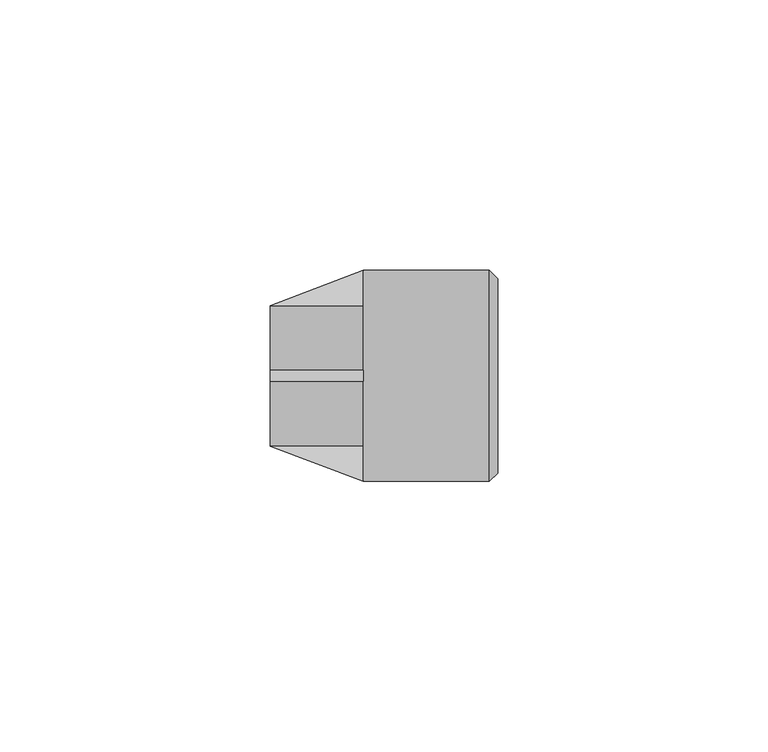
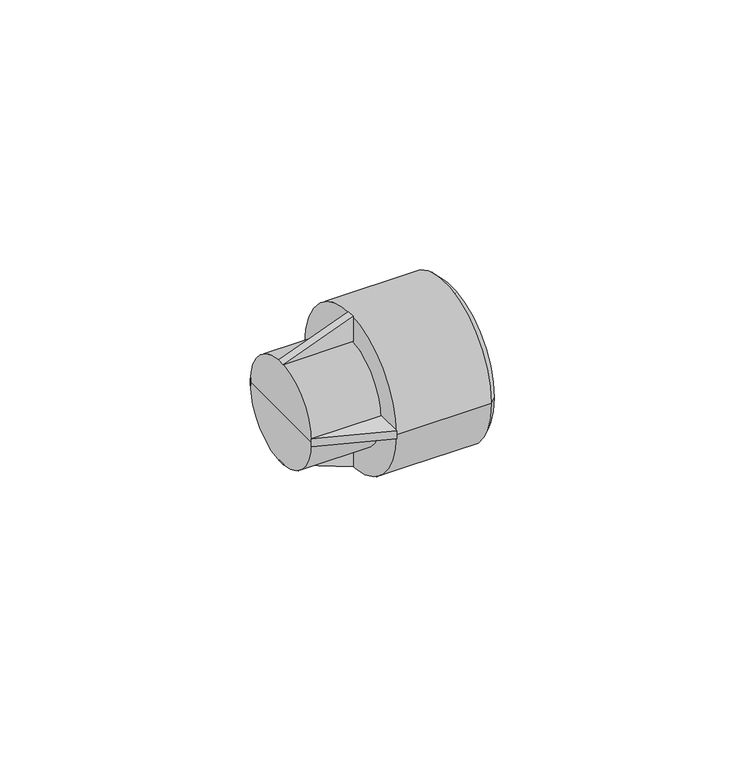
"""IFC4 building model written with IfcOpenShell, lengths in millimetres: pipe fitting geometry, KAN-therm PP mufa gw 1_2 : KAN-therm PP mufa gw 1_2."""

from ifc_helpers import new_model, si_unit, frame, origin, place, context, project, spatial, polyline, circle_curve, outline, extrude, source, transform, mapped, element, save
from ifc_brep_helpers import plane_surface, cylinder_surface, revolved_surface, advanced_brep


def pipe_fitting_1fe816a6(model_context):
    return source(origin(), model_context, "Body", "SolidModel", [
        extrude(outline(polyline([(13.0, -13.3), (13.0, 3.85), (19.5, 3.85), (13.0, -13.3)])), frame((0.0, -1.0, 0.0), z_axis=(0.0, 1.0, 0.0), x_axis=(0.0, 0.0, 1.0)), (0.0, 0.0, 1.0), 2.0),
        extrude(outline(polyline([(-13.0, -13.3), (-19.5, 3.85), (-13.0, 3.85), (-13.0, -13.3)])), frame((0.0, -1.0, 0.0), z_axis=(0.0, 1.0, 0.0), x_axis=(0.0, 0.0, 1.0)), (0.0, 0.0, 1.0), 2.0),
        extrude(outline(polyline([(3.85, 13.0), (-13.3, 13.0), (3.85, 19.5), (3.85, 13.0)])), frame((0.0, 0.0, -1.0), z_axis=(0.0, 0.0, 1.0), x_axis=(1.0, 0.0, 0.0)), (0.0, 0.0, 1.0), 2.0),
        extrude(outline(polyline([(-13.3, -13.0), (3.85, -13.0), (3.85, -19.5), (-13.3, -13.0)])), frame((0.0, 0.0, -1.0), z_axis=(0.0, 0.0, 1.0), x_axis=(1.0, 0.0, 0.0)), (0.0, 0.0, 1.0), 2.0),
        advanced_brep(
        [(28.7, -18.0, 0.0), (28.7, 18.0, 0.0), (28.7, 0.0, 0.0), (27.2, -19.5, 0.0), (27.2, 19.5, 0.0), (3.85, -19.5, 0.0), (3.85, 19.5, 0.0), (-13.3, 0.0, 0.0), (-13.3, 13.0, 0.0), (-13.3, -13.0, 0.0), (3.85, -13.0, 0.0), (3.85, 13.0, 0.0)],
        [
            (0, 1, circle_curve(frame((28.7, 0.0, 0.0), z_axis=(1.0, 0.0, 0.0), x_axis=(0.0, 1.0, 0.0)), 18.0)),
            (1, 2),
            (2, 0),
            (1, 0, circle_curve(frame((28.7, 0.0, 0.0), z_axis=(1.0, 0.0, 0.0), x_axis=(0.0, 1.0, 0.0)), 18.0)),
            (3, 4, circle_curve(frame((27.2, 0.0, 0.0), z_axis=(1.0, 0.0, 0.0), x_axis=(0.0, 1.0, 0.0)), 19.5)),
            (4, 1),
            (0, 3),
            (4, 3, circle_curve(frame((27.2, 0.0, 0.0), z_axis=(1.0, 0.0, 0.0), x_axis=(0.0, 1.0, 0.0)), 19.5)),
            (5, 6, circle_curve(frame((3.85, 0.0, 0.0), z_axis=(1.0, 0.0, 0.0), x_axis=(0.0, 1.0, 0.0)), 19.5)),
            (6, 4),
            (3, 5),
            (6, 5, circle_curve(frame((3.85, 0.0, 0.0), z_axis=(1.0, 0.0, 0.0), x_axis=(0.0, 1.0, 0.0)), 19.5)),
            (7, 8),
            (8, 9, circle_curve(frame((-13.3, 0.0, 0.0), z_axis=(-1.0, 0.0, 0.0), x_axis=(0.0, 1.0, 0.0)), 13.0)),
            (9, 7),
            (9, 8, circle_curve(frame((-13.3, 0.0, 0.0), z_axis=(-1.0, 0.0, 0.0), x_axis=(0.0, 1.0, 0.0)), 13.0)),
            (10, 11, circle_curve(frame((3.85, 0.0, 0.0), z_axis=(1.0, 0.0, 0.0), x_axis=(0.0, 1.0, 0.0)), 13.0)),
            (11, 6),
            (5, 10),
            (11, 10, circle_curve(frame((3.85, 0.0, 0.0), z_axis=(1.0, 0.0, 0.0), x_axis=(0.0, 1.0, 0.0)), 13.0)),
            (8, 11),
            (10, 9),
        ],
        [
            plane_surface(frame((28.7, 0.0, 0.0), z_axis=(1.0, 0.0, 0.0), x_axis=(0.0, 1.0, 0.0))),
            revolved_surface(polyline([(28.7, 18.0, 0.0), (27.2, 19.5, 0.0)]), (1342.442668, 0.0, 0.0), (-1.0, 0.0, 0.0)),
            cylinder_surface(frame((1342.442668, 0.0, 0.0), z_axis=(-1.0, 0.0, 0.0), x_axis=(0.0, 1.0, 0.0)), 19.5),
            plane_surface(frame((-13.3, 0.0, 0.0), z_axis=(-1.0, 0.0, 0.0), x_axis=(0.0, 1.0, 0.0))),
            plane_surface(frame((3.85, 0.0, 0.0), z_axis=(-1.0, 0.0, 0.0), x_axis=(0.0, 1.0, 0.0))),
            cylinder_surface(frame((1342.442668, 0.0, 0.0), z_axis=(-1.0, 0.0, 0.0), x_axis=(0.0, 1.0, 0.0)), 13.0),
        ],
        [
            (0, [[1, 2, 3]]),
            (0, [[4, -3, -2]]),
            (1, [[5, 6, -1, 7]]),
            (1, [[8, -7, -4, -6]]),
            (2, [[9, 10, -5, 11]]),
            (2, [[12, -11, -8, -10]]),
            (3, [[13, 14, 15]]),
            (3, [[-15, 16, -13]]),
            (4, [[17, 18, -9, 19]]),
            (4, [[20, -19, -12, -18]]),
            (5, [[-14, 21, -17, 22]]),
            (5, [[-16, -22, -20, -21]]),
        ],
    ),
    ])


if __name__ == "__main__":
    model = new_model("IFC4")
    model_context = context("Model", 3, world=origin())
    ifc_project = project(units=[si_unit("LENGTHUNIT", "METRE", prefix="MILLI")], contexts=[model_context])
    site = spatial("IfcSite", under=ifc_project)
    building = spatial("IfcBuilding", under=site)
    placement = place(None, origin())
    pipe_fitting_shape = pipe_fitting_1fe816a6(model_context)
    element("IfcPipeFitting", 1, ObjectType="KAN-therm PP mufa gw 1_2 : KAN-therm PP mufa gw 1_2", at=placement, inside=building, context=model_context, shape_type="MappedRepresentation", body=[
        mapped(pipe_fitting_shape, transform((0.0, 0.0, 0.0), x_axis=(1.0, 0.0, 0.0), y_axis=(0.0, 1.0, 0.0), z_axis=(0.0, 0.0, 1.0))),
    ])
    save(model, "model.ifc")
